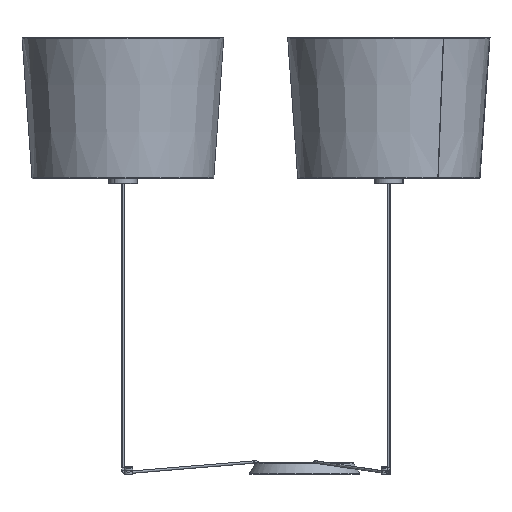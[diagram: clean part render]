
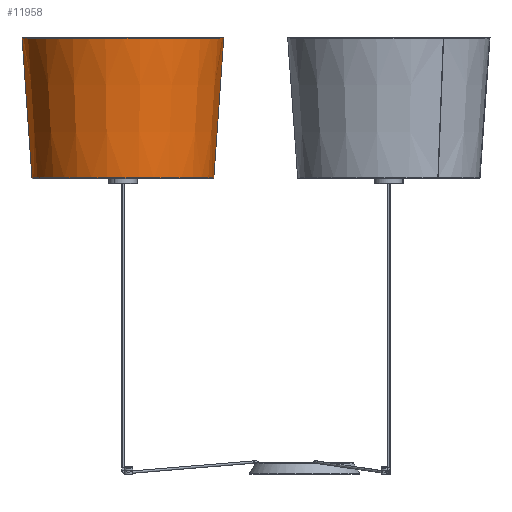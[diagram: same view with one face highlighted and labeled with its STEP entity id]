
A CAD part, left-side view. The second image highlights one B-rep face of the part: STEP entity #11958.
In plain terms, the highlighted conical face has half-angle 4.086 degrees and reference radius 247.443 mm.
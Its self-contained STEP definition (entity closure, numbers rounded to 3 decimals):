
#173=CONICAL_SURFACE('',#13302,247.443,0.071);
#1737=FACE_OUTER_BOUND('',#2606,.T.);
#2606=EDGE_LOOP('',(#10325,#10326,#10327,#10328));
#3358=LINE('',#27193,#4034);
#3359=LINE('',#27194,#4035);
#4034=VECTOR('',#16356,304.8);
#4035=VECTOR('',#16357,304.8);
#4643=CIRCLE('',#13292,249.929);
#4647=CIRCLE('',#13300,225.071);
#5633=VERTEX_POINT('',#26374);
#5635=VERTEX_POINT('',#26579);
#5638=VERTEX_POINT('',#26795);
#5639=VERTEX_POINT('',#26992);
#7201=EDGE_CURVE('',#5635,#5633,#4643,.T.);
#7209=EDGE_CURVE('',#5638,#5639,#4647,.T.);
#7210=EDGE_CURVE('',#5633,#5638,#3358,.T.);
#7211=EDGE_CURVE('',#5639,#5635,#3359,.T.);
#10325=ORIENTED_EDGE('',*,*,#7211,.T.);
#10326=ORIENTED_EDGE('',*,*,#7201,.T.);
#10327=ORIENTED_EDGE('',*,*,#7210,.T.);
#10328=ORIENTED_EDGE('',*,*,#7209,.T.);
#11958=ADVANCED_FACE('',(#1737),#173,.T.);
#13292=AXIS2_PLACEMENT_3D('',#26785,#16334,#16335);
#13300=AXIS2_PLACEMENT_3D('',#27191,#16352,#16353);
#13302=AXIS2_PLACEMENT_3D('',#27195,#16358,#16359);
#16334=DIRECTION('center_axis',(0.,0.,
1.));
#16335=DIRECTION('ref_axis',(0.588,0.809,0.));
#16352=DIRECTION('center_axis',(0.,0.,
-1.));
#16353=DIRECTION('ref_axis',(0.588,0.809,0.));
#16356=DIRECTION('',(0.,-0.071,0.997));
#16357=DIRECTION('',(0.,-0.071,-0.997));
#16358=DIRECTION('center_axis',(0.,0.,
-1.));
#16359=DIRECTION('ref_axis',(0.588,0.809,0.));
#26374=CARTESIAN_POINT('',(0.,699.929,294.473));
#26579=CARTESIAN_POINT('',(0.,200.071,294.473));
#26785=CARTESIAN_POINT('Origin',(0.,450.,
294.473));
#26795=CARTESIAN_POINT('',(0.,675.071,642.473));
#26992=CARTESIAN_POINT('',(0.,224.929,642.473));
#27191=CARTESIAN_POINT('Origin',(0.,450.,
642.473));
#27193=CARTESIAN_POINT('',(0.,699.929,294.473));
#27194=CARTESIAN_POINT('',(0.,224.929,642.473));
#27195=CARTESIAN_POINT('Origin',(0.,450.,
329.273));
